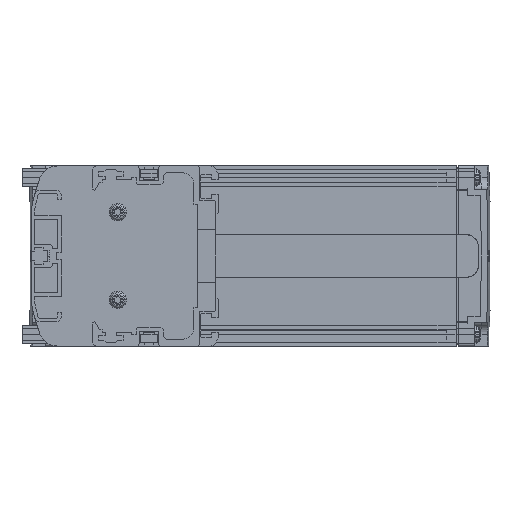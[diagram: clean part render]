
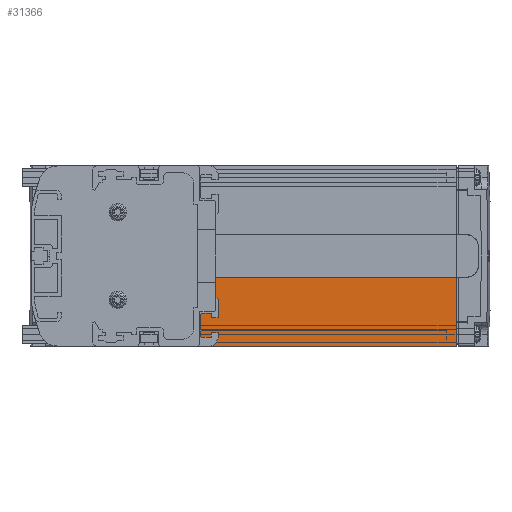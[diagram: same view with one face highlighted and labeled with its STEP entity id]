
A CAD part, left-side view. The second image highlights one B-rep face of the part: STEP entity #31366.
In plain terms, the highlighted planar face has unit normal (-1, 0, 0).
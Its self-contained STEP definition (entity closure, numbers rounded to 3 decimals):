
#3810=DIRECTION('',(0.,0.,1.));
#3811=VECTOR('',#3810,13.9);
#3812=CARTESIAN_POINT('',(3.,1.,-23.));
#3813=LINE('',#3812,#3811);
#4582=CARTESIAN_POINT('',(3.,2.,-23.));
#4583=DIRECTION('',(-1.,0.,0.));
#4584=DIRECTION('',(0.,0.,-1.));
#4585=AXIS2_PLACEMENT_3D('',#4582,#4583,#4584);
#4595=DIRECTION('',(0.,0.,1.));
#4596=VECTOR('',#4595,29.9);
#4597=CARTESIAN_POINT('',(3.,-103.,-39.));
#4598=LINE('',#4597,#4596);
#4615=DIRECTION('',(0.,1.,0.));
#4616=VECTOR('',#4615,104.);
#4617=CARTESIAN_POINT('',(3.,-103.,-9.1));
#4618=LINE('',#4617,#4616);
#8879=DIRECTION('',(0.,1.,0.));
#8880=VECTOR('',#8879,112.);
#8881=CARTESIAN_POINT('',(3.,-103.,-39.));
#8882=LINE('',#8881,#8880);
#10074=CARTESIAN_POINT('',(3.,9.,-38.));
#10075=DIRECTION('',(-1.,0.,0.));
#10076=DIRECTION('',(0.,0.,-1.));
#10077=AXIS2_PLACEMENT_3D('',#10074,#10075,#10076);
#10087=DIRECTION('',(0.,0.,-1.));
#10088=VECTOR('',#10087,14.);
#10089=CARTESIAN_POINT('',(3.,8.,-24.));
#10090=LINE('',#10089,#10088);
#10091=DIRECTION('',(0.,1.,0.));
#10092=VECTOR('',#10091,6.);
#10093=CARTESIAN_POINT('',(3.,2.,-24.));
#10094=LINE('',#10093,#10092);
#20160=CARTESIAN_POINT('',(3.,-103.,-39.));
#20161=VERTEX_POINT('',#20160);
#20162=CARTESIAN_POINT('',(3.,-103.,-9.1));
#20163=VERTEX_POINT('',#20162);
#24691=CARTESIAN_POINT('',(3.,1.,-23.));
#24692=CARTESIAN_POINT('',(3.,1.,-9.1));
#24693=VERTEX_POINT('',#24691);
#24694=VERTEX_POINT('',#24692);
#24739=CARTESIAN_POINT('',(3.,9.,-39.));
#24740=CARTESIAN_POINT('',(3.,8.,-38.));
#24741=VERTEX_POINT('',#24739);
#24742=VERTEX_POINT('',#24740);
#24743=CARTESIAN_POINT('',(3.,8.,-24.));
#24744=VERTEX_POINT('',#24743);
#24745=CARTESIAN_POINT('',(3.,2.,-24.));
#24746=VERTEX_POINT('',#24745);
#31345=CARTESIAN_POINT('',(3.,-18.,-24.05));
#31346=DIRECTION('',(1.,0.,0.));
#31347=DIRECTION('',(0.,0.,-1.));
#31348=AXIS2_PLACEMENT_3D('',#31345,#31346,#31347);
#31349=PLANE('',#31348);
#31350=ORIENTED_EDGE('',*,*,#28269,.T.);
#31352=ORIENTED_EDGE('',*,*,#31351,.F.);
#31354=ORIENTED_EDGE('',*,*,#31353,.F.);
#31356=ORIENTED_EDGE('',*,*,#31355,.T.);
#31358=ORIENTED_EDGE('',*,*,#31357,.T.);
#31360=ORIENTED_EDGE('',*,*,#31359,.F.);
#31362=ORIENTED_EDGE('',*,*,#31361,.F.);
#31363=ORIENTED_EDGE('',*,*,#31336,.T.);
#31364=EDGE_LOOP('',(#31350,#31352,#31354,#31356,#31358,#31360,#31362,#31363));
#31365=FACE_OUTER_BOUND('',#31364,.F.);
#31366=ADVANCED_FACE('',(#31365),#31349,.F.);
#4586=CIRCLE('',#4585,1.);
#10078=CIRCLE('',#10077,1.);
#28269=EDGE_CURVE('',#24693,#24694,#3813,.T.);
#31336=EDGE_CURVE('',#24746,#24693,#4586,.T.);
#31351=EDGE_CURVE('',#20163,#24694,#4618,.T.);
#31353=EDGE_CURVE('',#20161,#20163,#4598,.T.);
#31355=EDGE_CURVE('',#20161,#24741,#8882,.T.);
#31357=EDGE_CURVE('',#24741,#24742,#10078,.T.);
#31359=EDGE_CURVE('',#24744,#24742,#10090,.T.);
#31361=EDGE_CURVE('',#24746,#24744,#10094,.T.);
